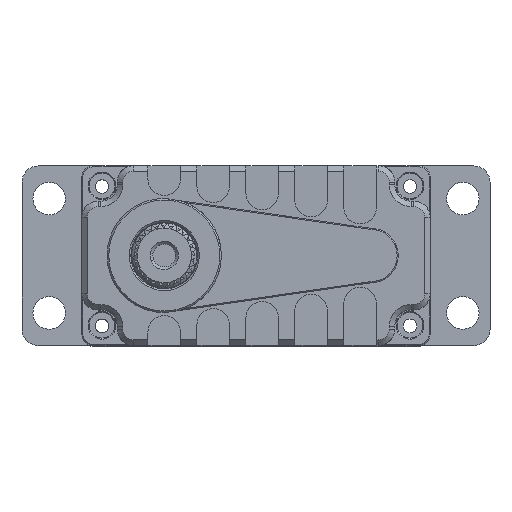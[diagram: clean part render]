
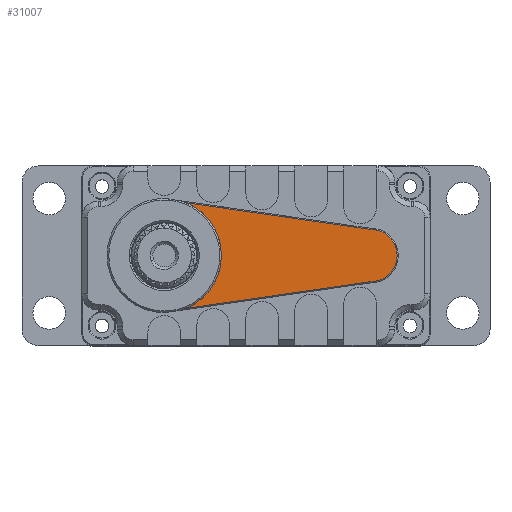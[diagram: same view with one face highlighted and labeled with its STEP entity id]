
A CAD part, top view. The second image highlights one B-rep face of the part: STEP entity #31007.
In plain terms, the highlighted planar face has unit normal (0, 0, 1).
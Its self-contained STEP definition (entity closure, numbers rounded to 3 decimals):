
#821 = AXIS2_PLACEMENT_3D ( 'NONE', #23579, #27399, #8965 ) ;
#1040 = ORIENTED_EDGE ( 'NONE', *, *, #35745, .F. ) ;
#1670 = CIRCLE ( 'NONE', #821, 10.5 ) ;
#1828 = VECTOR ( 'NONE', #45832, 1000. ) ;
#4022 = DIRECTION ( 'NONE',  ( -1., 0., 0. ) ) ;
#4405 = DIRECTION ( 'NONE',  ( 0., 0., 1. ) ) ;
#4728 = VERTEX_POINT ( 'NONE', #21376 ) ;
#5552 = ORIENTED_EDGE ( 'NONE', *, *, #36983, .F. ) ;
#6350 = ORIENTED_EDGE ( 'NONE', *, *, #28773, .T. ) ;
#8899 = AXIS2_PLACEMENT_3D ( 'NONE', #37357, #41026, #4022 ) ;
#8965 = DIRECTION ( 'NONE',  ( 1., 0., 0. ) ) ;
#11063 = EDGE_LOOP ( 'NONE', ( #1040, #5552, #6350, #34976, #25035 ) ) ;
#14217 = LINE ( 'NONE', #43537, #43658 ) ;
#15552 = EDGE_CURVE ( 'NONE', #17926, #19204, #14217, .T. ) ;
#15623 = CARTESIAN_POINT ( 'NONE',  ( -40.108, 11.11, 42.618 ) ) ;
#15929 = DIRECTION ( 'NONE',  ( 1., 0., 0. ) ) ;
#17926 = VERTEX_POINT ( 'NONE', #30178 ) ;
#19204 = VERTEX_POINT ( 'NONE', #41816 ) ;
#21376 = CARTESIAN_POINT ( 'NONE',  ( -6.082, 6.186, 42.618 ) ) ;
#23579 = CARTESIAN_POINT ( 'NONE',  ( -44.068, 1.386, 42.618 ) ) ;
#23657 = CARTESIAN_POINT ( 'NONE',  ( -44.068, 1.386, 42.618 ) ) ;
#23824 = DIRECTION ( 'NONE',  ( 0., 0., -1. ) ) ;
#24619 = AXIS2_PLACEMENT_3D ( 'NONE', #34740, #23824, #15929 ) ;
#25035 = ORIENTED_EDGE ( 'NONE', *, *, #15552, .F. ) ;
#26812 = CARTESIAN_POINT ( 'NONE',  ( -40.108, 11.11, 42.618 ) ) ;
#27399 = DIRECTION ( 'NONE',  ( 0., 0., -1. ) ) ;
#28773 = EDGE_CURVE ( 'NONE', #45559, #48960, #1670, .T. ) ;
#30178 = CARTESIAN_POINT ( 'NONE',  ( -6.082, -3.414, 42.618 ) ) ;
#30823 = DIRECTION ( 'NONE',  ( 1., 0., 0. ) ) ;
#31007 = ADVANCED_FACE ( 'NONE', ( #48468 ), #46125, .T. ) ;
#31038 = EDGE_CURVE ( 'NONE', #48960, #19204, #40211, .T. ) ;
#34740 = CARTESIAN_POINT ( 'NONE',  ( -44.068, 1.386, 42.618 ) ) ;
#34976 = ORIENTED_EDGE ( 'NONE', *, *, #31038, .T. ) ;
#35603 = DIRECTION ( 'NONE',  ( -0.99, -0.143, 0. ) ) ;
#35745 = EDGE_CURVE ( 'NONE', #4728, #17926, #41680, .T. ) ;
#36983 = EDGE_CURVE ( 'NONE', #45559, #4728, #48474, .T. ) ;
#37357 = CARTESIAN_POINT ( 'NONE',  ( -6.068, 1.386, 42.618 ) ) ;
#40211 = CIRCLE ( 'NONE', #24619, 10.5 ) ;
#41026 = DIRECTION ( 'NONE',  ( 0., 0., -1. ) ) ;
#41680 = CIRCLE ( 'NONE', #8899, 4.8 ) ;
#41816 = CARTESIAN_POINT ( 'NONE',  ( -40.108, -8.339, 42.618 ) ) ;
#43537 = CARTESIAN_POINT ( 'NONE',  ( -6.082, -3.414, 42.618 ) ) ;
#43658 = VECTOR ( 'NONE', #35603, 1000. ) ;
#45559 = VERTEX_POINT ( 'NONE', #26812 ) ;
#45832 = DIRECTION ( 'NONE',  ( 0.99, -0.143, 0. ) ) ;
#45894 = CARTESIAN_POINT ( 'NONE',  ( -33.568, 1.386, 42.618 ) ) ;
#46125 = PLANE ( 'NONE',  #48664 ) ;
#48468 = FACE_OUTER_BOUND ( 'NONE', #11063, .T. ) ;
#48474 = LINE ( 'NONE', #15623, #1828 ) ;
#48664 = AXIS2_PLACEMENT_3D ( 'NONE', #23657, #4405, #30823 ) ;
#48960 = VERTEX_POINT ( 'NONE', #45894 ) ;
